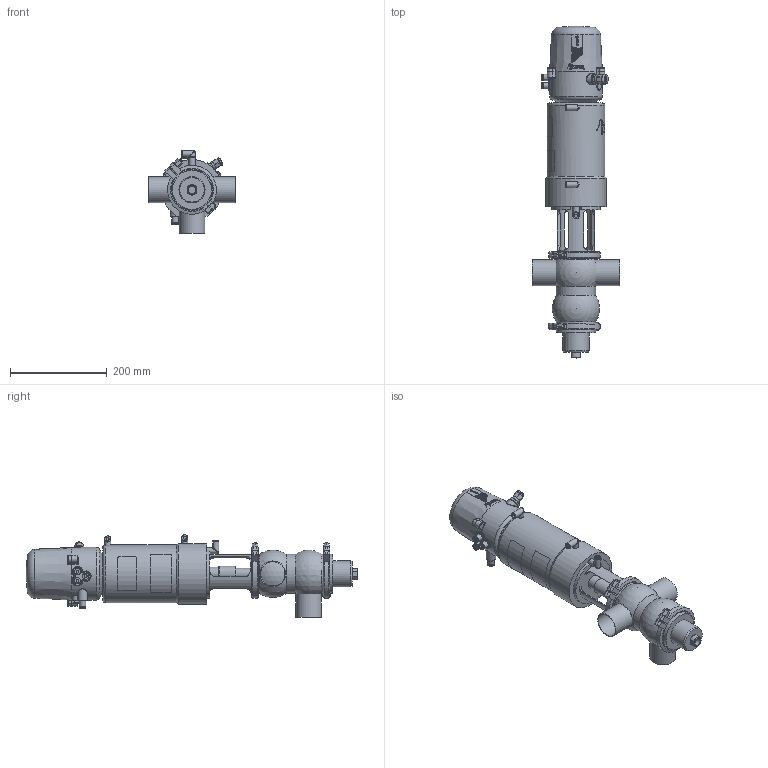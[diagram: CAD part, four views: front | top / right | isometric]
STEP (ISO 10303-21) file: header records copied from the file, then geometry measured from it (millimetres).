
FILE_DESCRIPTION (( 'STEP AP214' ), '1' );
FILE_NAME ('INNOVA P AB-90 W DIN 050 & C-TOP S_10.250.16.0011.STEP', '2024-08-09T12:26:15', ( '' ), ( '' ), 'SwSTEP 2.0', 'SolidWorks 2023', '' );
FILE_SCHEMA (( 'AUTOMOTIVE_DESIGN' ));
Length unit declared in the file: millimetre
Products named in the file (7): 10.250.15.0003_DN 050; 10.426.15.0001_C-TOP S - 3 EV; 10.240.15.0001_DN 050; 10.250.15.0002_Type P T1; 10.250.15.0001_DIN 050; 10.251.15.0003_DIN 050; INNOVA P AB-90 W DIN 050 & C-TOP S_10.250.16.0011
Assembly tree (7 placements, depth 2):
  INNOVA P AB-90 W DIN 050 & C-TOP S_10.250.16.0011
    10.250.15.0001_DIN 050
    10.250.15.0002_Type P T1
    10.426.15.0001_C-TOP S - 3 EV
    10.251.15.0003_DIN 050
    10.240.15.0001_DN 050  x2
    10.250.15.0003_DN 050
Bounding box: 180 x 686 x 171 mm (x, y, z)
Volume: 5281174.6 mm3; surface area: 408749.6 mm2
Topology: 7 solids, 7 shells, 1207 faces, 2907 edges, 1931 vertices
Faces by surface type: plane 414, cylinder 385, cone 203, bspline 163, torus 33, sphere 9
Full cylindrical faces by diameter (mm): 0.371 x17, 0.512 x16, 0.658 x16, 0.795 x16, 0.94 x15, 1.098 x15, 1.241 x13, 1.382 x13, 1.523 x11, 1.669 x10, 2.201 x1, 4.2 x2, 5 x1, 5.5 x2, 6 x4, 6.15 x3, 8 x5, 10 x1, 10.5 x3, 11 x4, 12.5 x9, 13 x6, 13.5 x2, 16 x1, 17 x3, 20 x2, 22 x2, 23 x1, 28 x1, 31.5 x1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
Entity records: 59143 total; most frequent: CARTESIAN_POINT 27701, ORIENTED_EDGE 4620, DIRECTION 3769, EDGE_CURVE 2310, VERTEX_POINT 1646, EDGE_LOOP 1628, AXIS2_PLACEMENT_3D 1551, FACE_OUTER_BOUND 1376
